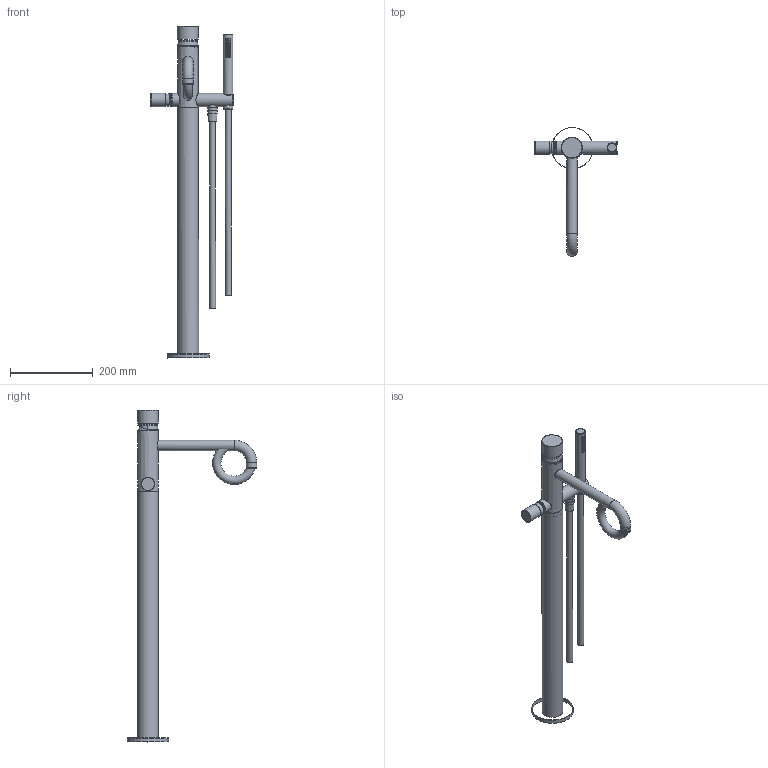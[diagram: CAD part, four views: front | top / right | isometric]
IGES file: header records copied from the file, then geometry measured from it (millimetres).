
Start section: Data from Parasolid IGES Translator 22.0.50, Copyright(c) 2006 Siemens P LM Software. All Rights Reserved.
Global section: file name: noorth-taps-H 80 D 31,3 W 18_5845.igs; native system: By Siemens PLM Incorporated; preprocessor: XPlus GENERIC/IGES 22.0.50; author: Noname; organization: Noname; date: 20260201.212203; units: metre
Bounding box: 198.54 x 312.5 x 800.62 mm (x, y, z)
Volume: 1728329.5 mm3; surface area: 301365.8 mm2
Topology: 16 solids, 16 shells, 445 faces, 2354 edges, 2117 vertices
Faces by surface type: plane 158, revolution 83, cylinder 77, extrusion 61, cone 38, bspline 20, torus 8
Full cylindrical faces by diameter (mm): 2 x31, 3 x1, 4 x1, 10.5 x1, 13.7 x1, 14 x2, 14.2 x2, 14.5 x1, 15.2 x1, 16 x4, 16.5 x1, 17.7 x1, 18.5 x2, 19.1 x1, 19.2 x3, 20 x3, 20.7 x1, 21.5 x2, 22 x2, 23 x1, 25 x2, 29.4 x1, 29.5 x1, 30.5 x1, 32 x2, 32.463 x1, 47 x1, 47.5 x1, 50 x1, 50.467 x1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
